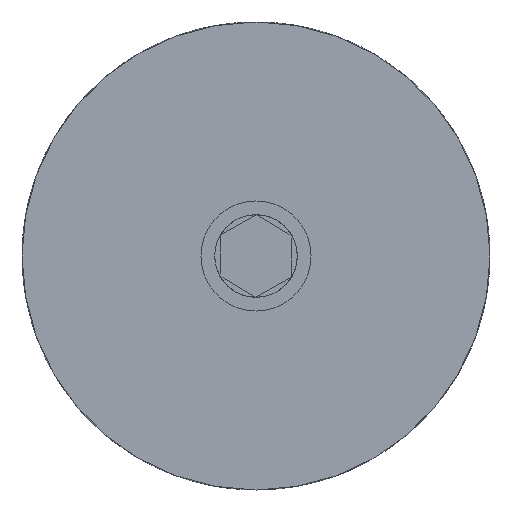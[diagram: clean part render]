
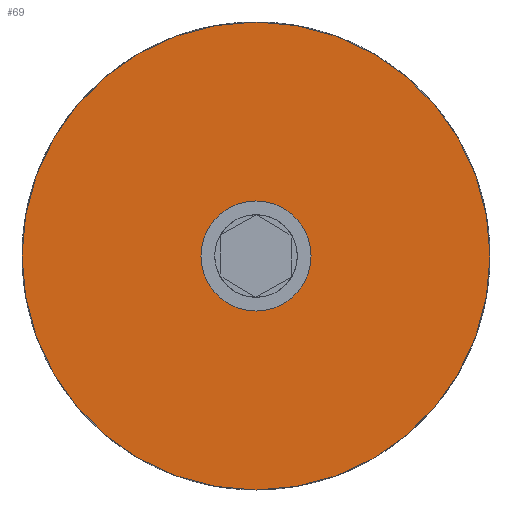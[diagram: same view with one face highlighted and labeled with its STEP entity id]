
A CAD part, front view. The second image highlights one B-rep face of the part: STEP entity #69.
In plain terms, the highlighted planar face has unit normal (0, -1, 0).
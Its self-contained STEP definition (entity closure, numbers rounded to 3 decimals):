
#69=ADVANCED_FACE('',(#192,#194),#196,.F.);
#192=FACE_BOUND('',#193,.T.);
#193=EDGE_LOOP('',(#288));
#194=FACE_BOUND('',#195,.T.);
#195=EDGE_LOOP('',(#289));
#196=PLANE('',#197);
#197=AXIS2_PLACEMENT_3D('',#198,#199,#200);
#198=CARTESIAN_POINT('',(0.,-13.,0.));
#199=DIRECTION('',(0.,1.,0.));
#200=DIRECTION('',(-1.,0.,0.));
#288=ORIENTED_EDGE('',*,*,#329,.F.);
#289=ORIENTED_EDGE('',*,*,#328,.T.);
#328=EDGE_CURVE('',#377,#377,#378,.T.);
#329=EDGE_CURVE('',#379,#379,#380,.T.);
#377=VERTEX_POINT('',#495);
#378=CIRCLE('',#496,8.);
#379=VERTEX_POINT('',#500);
#380=CIRCLE('',#501,34.);
#495=CARTESIAN_POINT('',(-8.,-13.,-81.));
#496=AXIS2_PLACEMENT_3D('',#497,#498,#499);
#497=CARTESIAN_POINT('',(0.,-13.,-81.));
#498=DIRECTION('',(0.,1.,0.));
#499=DIRECTION('',(-1.,0.,0.));
#500=CARTESIAN_POINT('',(-34.,-13.,-81.));
#501=AXIS2_PLACEMENT_3D('',#502,#503,#504);
#502=CARTESIAN_POINT('',(0.,-13.,-81.));
#503=DIRECTION('',(0.,1.,0.));
#504=DIRECTION('',(-1.,0.,0.));
